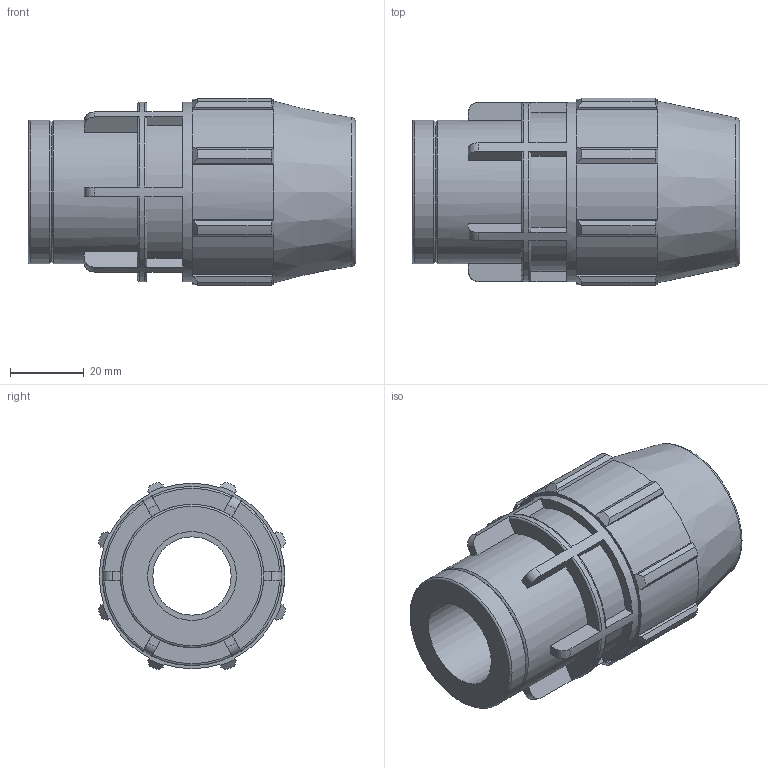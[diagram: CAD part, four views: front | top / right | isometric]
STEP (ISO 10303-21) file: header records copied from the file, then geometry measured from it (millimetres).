
FILE_DESCRIPTION(/* description */ ('PLASSON FEMALE ADAPTOR 3/4'''' - 3/4''''F'),/* implementation_level */ '2;1');
FILE_NAME(/* name */ 'C:\Dropbox\KIMPROJECTS-Inventor 2019\99-16-3568-Processing Inch\ASTM Compression 2021\0703M0\0703M0007007.ipt.stp',/* time_stamp */ '2021-08-26T12:30:39+03:00',/* author */ ('KIM'),/* organization */ (''),/* preprocessor_version */ 'ST-DEVELOPER v17.2',/* originating_system */ 'Autodesk Inventor 2019',/* authorisation */ '');
FILE_SCHEMA (('AUTOMOTIVE_DESIGN { 1 0 10303 214 3 1 1 }'));
Length unit declared in the file: inch
Products named in the file (1): 0703M0007007
Bounding box: 88.9 x 50.91 x 50.91 mm (x, y, z)
Volume: 92779.6 mm3; surface area: 24837.5 mm2
Topology: 1 solids, 1 shells, 148 faces, 420 edges, 284 vertices
Faces by surface type: plane 86, cylinder 28, torus 20, cone 14
Full cylindrical faces by diameter (mm): 21.28 x1, 24.117 x1, 26.6 x1, 38.953 x2, 48.692 x1
Entity records: 5308 total; most frequent: CARTESIAN_POINT 1241, ORIENTED_EDGE 840, DIRECTION 798, EDGE_CURVE 420, AXIS2_PLACEMENT_3D 297, VERTEX_POINT 284, LINE 204, VECTOR 204
